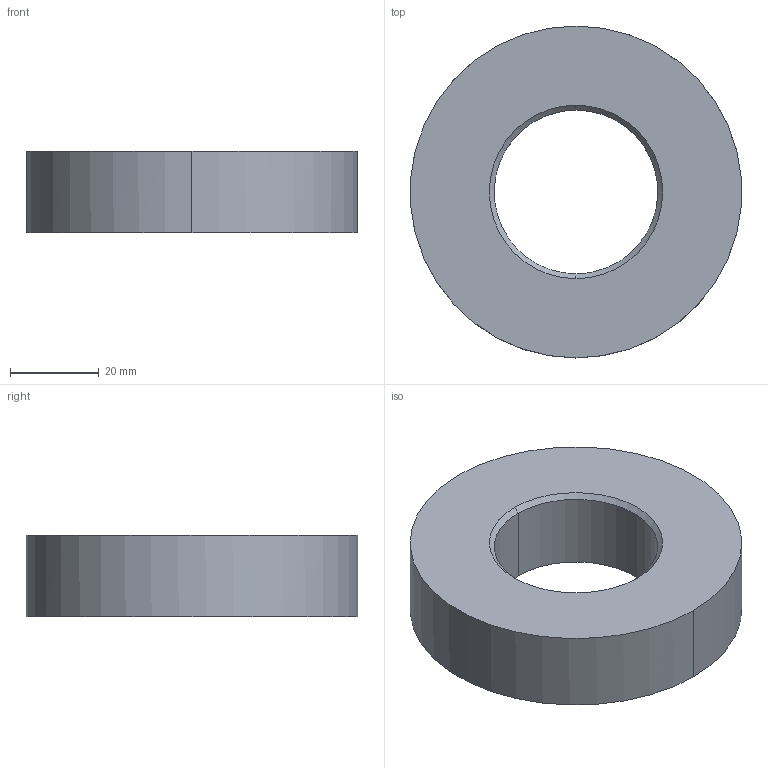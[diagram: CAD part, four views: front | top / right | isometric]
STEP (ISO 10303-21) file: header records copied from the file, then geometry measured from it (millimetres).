
FILE_DESCRIPTION (( 'STEP AP214' ), '1' );
FILE_NAME ('Soemer-SM71-M36 U-Scheibe.STEP', '2023-09-26T09:46:39', ( '' ), ( '' ), 'SwSTEP 2.0', 'SolidWorks 2019', '' );
FILE_SCHEMA (( 'AUTOMOTIVE_DESIGN' ));
Length unit declared in the file: millimetre
Products named in the file (2): Soemer-SM71-M36 U-Scheibe
Bounding box: 74.76 x 75 x 18.4 mm (x, y, z)
Volume: 61433.6 mm3; surface area: 13086.3 mm2
Topology: 1 solids, 1 shells, 8 faces, 16 edges, 10 vertices
Faces by surface type: bspline 6, plane 2
Entity records: 401 total; most frequent: CARTESIAN_POINT 218, ORIENTED_EDGE 32, EDGE_CURVE 16, DIRECTION 14, EDGE_LOOP 10, VERTEX_POINT 10, B_SPLINE_CURVE_WITH_KNOTS 10, FACE_OUTER_BOUND 8
